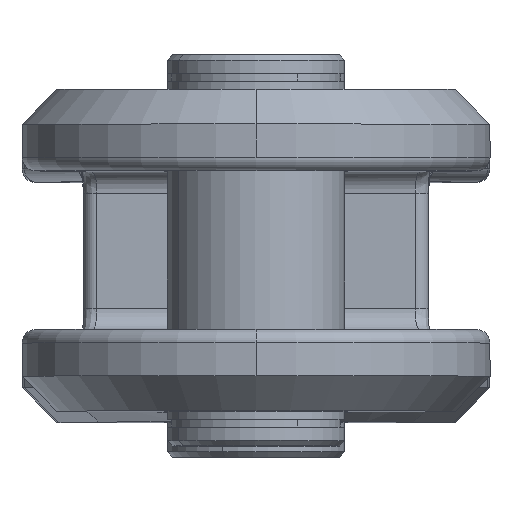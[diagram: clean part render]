
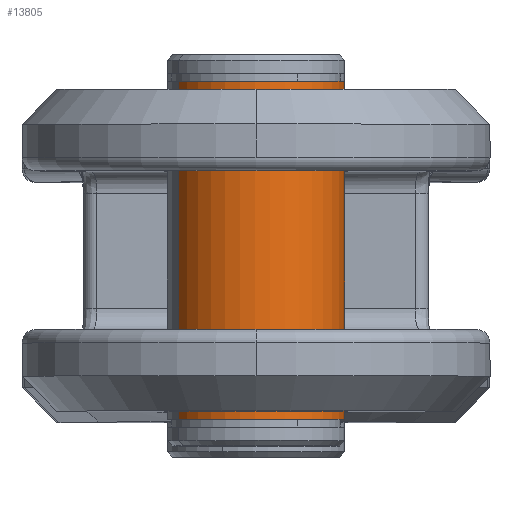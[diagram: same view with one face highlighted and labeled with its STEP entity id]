
A CAD part, top view. The second image highlights one B-rep face of the part: STEP entity #13805.
In plain terms, the highlighted cylindrical face has radius 33 mm (diameter 66 mm), a partial arc.
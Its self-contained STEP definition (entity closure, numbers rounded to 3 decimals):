
#376 = CARTESIAN_POINT ( 'NONE',  ( 0., 0., -33. ) ) ;
#946 = DIRECTION ( 'NONE',  ( 0., -1., 0. ) ) ;
#1472 = AXIS2_PLACEMENT_3D ( 'NONE', #17667, #9268, #946 ) ;
#1838 = AXIS2_PLACEMENT_3D ( 'NONE', #16145, #7748, #6225 ) ;
#3089 = CARTESIAN_POINT ( 'NONE',  ( 135.5, 0., -33. ) ) ;
#5091 = AXIS2_PLACEMENT_3D ( 'NONE', #16242, #7841, #17660 ) ;
#5556 = EDGE_CURVE ( 'NONE', #12781, #7060, #14065, .T. ) ;
#5657 = EDGE_LOOP ( 'NONE', ( #7287, #11653, #11127, #11724 ) ) ;
#6156 = VECTOR ( 'NONE', #9281, 1000. ) ;
#6225 = DIRECTION ( 'NONE',  ( 0., 0., 1. ) ) ;
#7060 = VERTEX_POINT ( 'NONE', #9213 ) ;
#7287 = ORIENTED_EDGE ( 'NONE', *, *, #12964, .F. ) ;
#7743 = EDGE_CURVE ( 'NONE', #14456, #7060, #16658, .T. ) ;
#7748 = DIRECTION ( 'NONE',  ( -1., 0., 0. ) ) ;
#7841 = DIRECTION ( 'NONE',  ( -1., 0., 0. ) ) ;
#9005 = CARTESIAN_POINT ( 'NONE',  ( 9.9, 0., -33. ) ) ;
#9213 = CARTESIAN_POINT ( 'NONE',  ( 9.9, 0., 33. ) ) ;
#9268 = DIRECTION ( 'NONE',  ( -1., 0., 0. ) ) ;
#9281 = DIRECTION ( 'NONE',  ( -1., 0., 0. ) ) ;
#10114 = EDGE_CURVE ( 'NONE', #17087, #12781, #11749, .T. ) ;
#11127 = ORIENTED_EDGE ( 'NONE', *, *, #5556, .T. ) ;
#11596 = DIRECTION ( 'NONE',  ( -1., 0., 0. ) ) ;
#11653 = ORIENTED_EDGE ( 'NONE', *, *, #10114, .T. ) ;
#11724 = ORIENTED_EDGE ( 'NONE', *, *, #7743, .F. ) ;
#11749 = CIRCLE ( 'NONE', #1472, 33. ) ;
#12781 = VERTEX_POINT ( 'NONE', #16866 ) ;
#12964 = EDGE_CURVE ( 'NONE', #17087, #14456, #17401, .T. ) ;
#13531 = CARTESIAN_POINT ( 'NONE',  ( 0., 0., 33. ) ) ;
#13805 = ADVANCED_FACE ( 'NONE', ( #15009 ), #14132, .T. ) ;
#14065 = LINE ( 'NONE', #13531, #6156 ) ;
#14132 = CYLINDRICAL_SURFACE ( 'NONE', #1838, 33. ) ;
#14456 = VERTEX_POINT ( 'NONE', #9005 ) ;
#15009 = FACE_OUTER_BOUND ( 'NONE', #5657, .T. ) ;
#16145 = CARTESIAN_POINT ( 'NONE',  ( 0., 0., 0. ) ) ;
#16242 = CARTESIAN_POINT ( 'NONE',  ( 9.9, 0., 0. ) ) ;
#16658 = CIRCLE ( 'NONE', #5091, 33. ) ;
#16866 = CARTESIAN_POINT ( 'NONE',  ( 135.5, 0., 33. ) ) ;
#17087 = VERTEX_POINT ( 'NONE', #3089 ) ;
#17401 = LINE ( 'NONE', #376, #17846 ) ;
#17660 = DIRECTION ( 'NONE',  ( 0., -1., 0. ) ) ;
#17667 = CARTESIAN_POINT ( 'NONE',  ( 135.5, 0., 0. ) ) ;
#17846 = VECTOR ( 'NONE', #11596, 1000. ) ;
